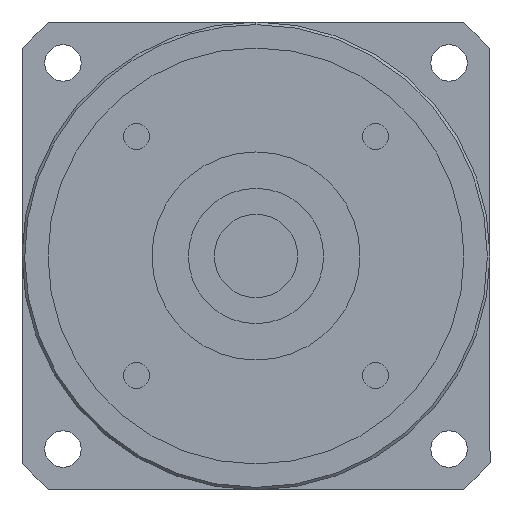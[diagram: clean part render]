
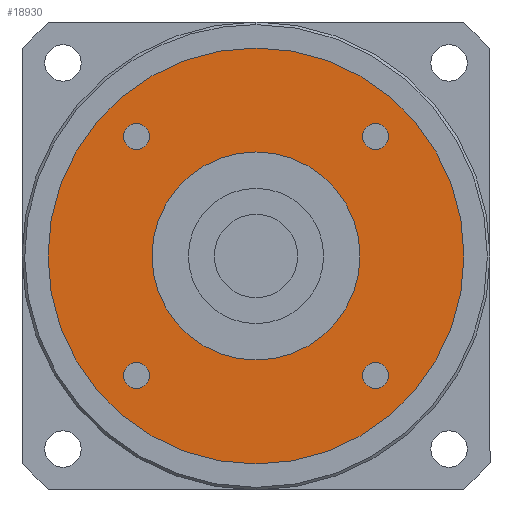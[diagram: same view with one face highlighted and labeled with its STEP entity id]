
A CAD part, left-side view. The second image highlights one B-rep face of the part: STEP entity #18930.
In plain terms, the highlighted planar face has unit normal (-1, 0, 0) as drawn and (0, 0, -1) by its records, which use the part's own axes.
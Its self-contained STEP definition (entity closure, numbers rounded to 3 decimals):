
#15670=CARTESIAN_POINT('',(0.,0.,
-117.));
#15680=DIRECTION('',(0.,0.,1.));
#15690=DIRECTION('',(0.,-1.,0.));
#15700=AXIS2_PLACEMENT_3D('',#15670,#15680,#15690);
#15710=CIRCLE('',#15700,20.);
#15720=CARTESIAN_POINT('',(0.,-20.,-117.));
#15730=VERTEX_POINT('',#15720);
#15740=CARTESIAN_POINT('',(20.,0.,-117.));
#15750=VERTEX_POINT('',#15740);
#15760=EDGE_CURVE('',#15730,#15750,#15710,.T.);
#15990=CARTESIAN_POINT('',(-20.,0.,-117.));
#16000=VERTEX_POINT('',#15990);
#16030=EDGE_CURVE('',#16000,#15730,#15710,.T.);
#16170=CARTESIAN_POINT('',(-20.481,-22.981,-117.));
#16180=VERTEX_POINT('',#16170);
#16360=CARTESIAN_POINT('',(-25.481,-22.981,-117.));
#16370=VERTEX_POINT('',#16360);
#16400=CARTESIAN_POINT('',(-22.981,-22.981,-117.));
#16410=DIRECTION('',(0.,0.,-1.));
#16420=DIRECTION('',(0.,-1.,0.));
#16430=AXIS2_PLACEMENT_3D('',#16400,#16410,#16420);
#16440=CIRCLE('',#16430,2.5);
#16450=CARTESIAN_POINT('',(-22.981,-25.481,-117.));
#16460=VERTEX_POINT('',#16450);
#16470=EDGE_CURVE('',#16460,#16370,#16440,.T.);
#16490=EDGE_CURVE('',#16180,#16460,#16440,.T.);
#17860=CARTESIAN_POINT('',(40.,0.,-117.));
#17870=VERTEX_POINT('',#17860);
#17900=CARTESIAN_POINT('',(0.,0.,
-117.));
#17910=DIRECTION('',(0.,0.,1.));
#17920=DIRECTION('',(0.,-1.,0.));
#17930=AXIS2_PLACEMENT_3D('',#17900,#17910,#17920);
#17940=CIRCLE('',#17930,40.);
#17950=CARTESIAN_POINT('',(0.,-40.,-117.));
#17960=VERTEX_POINT('',#17950);
#17970=EDGE_CURVE('',#17960,#17870,#17940,.T.);
#17990=CARTESIAN_POINT('',(-40.,0.,-117.));
#18000=VERTEX_POINT('',#17990);
#18010=EDGE_CURVE('',#18000,#17960,#17940,.T.);
#18130=CARTESIAN_POINT('',(0.,0.,
-117.));
#18140=DIRECTION('',(0.,0.,1.));
#18150=DIRECTION('',(-1.,0.,0.));
#18160=AXIS2_PLACEMENT_3D('',#18130,#18140,#18150);
#18170=PLANE('',#18160);
#18180=CARTESIAN_POINT('',(22.981,-22.981,-117.));
#18190=DIRECTION('',(0.,0.,-1.));
#18200=DIRECTION('',(1.,0.,0.));
#18210=AXIS2_PLACEMENT_3D('',#18180,#18190,#18200);
#18220=CIRCLE('',#18210,2.5);
#18230=CARTESIAN_POINT('',(25.481,-22.981,-117.));
#18240=VERTEX_POINT('',#18230);
#18250=CARTESIAN_POINT('',(22.981,-25.481,-117.));
#18260=VERTEX_POINT('',#18250);
#18270=EDGE_CURVE('',#18240,#18260,#18220,.T.);
#18280=ORIENTED_EDGE('',*,*,#18270,.F.);
#18290=CARTESIAN_POINT('',(22.981,-20.481,-117.));
#18300=VERTEX_POINT('',#18290);
#18310=EDGE_CURVE('',#18260,#18300,#18220,.T.);
#18320=ORIENTED_EDGE('',*,*,#18310,.F.);
#18330=EDGE_CURVE('',#18300,#18240,#18220,.T.);
#18340=ORIENTED_EDGE('',*,*,#18330,.F.);
#18350=EDGE_LOOP('',(#18340,#18320,#18280));
#18360=FACE_BOUND('',#18350,.T.);
#18370=CARTESIAN_POINT('',(22.981,22.981,-117.));
#18380=DIRECTION('',(0.,0.,-1.));
#18390=DIRECTION('',(0.,1.,0.));
#18400=AXIS2_PLACEMENT_3D('',#18370,#18380,#18390);
#18410=CIRCLE('',#18400,2.5);
#18420=CARTESIAN_POINT('',(22.981,25.481,-117.));
#18430=VERTEX_POINT('',#18420);
#18440=CARTESIAN_POINT('',(25.481,22.981,-117.));
#18450=VERTEX_POINT('',#18440);
#18460=EDGE_CURVE('',#18430,#18450,#18410,.T.);
#18470=ORIENTED_EDGE('',*,*,#18460,.F.);
#18480=CARTESIAN_POINT('',(20.481,22.981,-117.));
#18490=VERTEX_POINT('',#18480);
#18500=EDGE_CURVE('',#18450,#18490,#18410,.T.);
#18510=ORIENTED_EDGE('',*,*,#18500,.F.);
#18520=EDGE_CURVE('',#18490,#18430,#18410,.T.);
#18530=ORIENTED_EDGE('',*,*,#18520,.F.);
#18540=EDGE_LOOP('',(#18530,#18510,#18470));
#18550=FACE_BOUND('',#18540,.T.);
#18560=CARTESIAN_POINT('',(-22.981,22.981,-117.));
#18570=DIRECTION('',(0.,0.,-1.));
#18580=DIRECTION('',(-1.,0.,0.));
#18590=AXIS2_PLACEMENT_3D('',#18560,#18570,#18580);
#18600=CIRCLE('',#18590,2.5);
#18610=CARTESIAN_POINT('',(-25.481,22.981,-117.));
#18620=VERTEX_POINT('',#18610);
#18630=CARTESIAN_POINT('',(-22.981,25.481,-117.));
#18640=VERTEX_POINT('',#18630);
#18650=EDGE_CURVE('',#18620,#18640,#18600,.T.);
#18660=ORIENTED_EDGE('',*,*,#18650,.F.);
#18670=CARTESIAN_POINT('',(-22.981,20.481,-117.));
#18680=VERTEX_POINT('',#18670);
#18690=EDGE_CURVE('',#18640,#18680,#18600,.T.);
#18700=ORIENTED_EDGE('',*,*,#18690,.F.);
#18710=EDGE_CURVE('',#18680,#18620,#18600,.T.);
#18720=ORIENTED_EDGE('',*,*,#18710,.F.);
#18730=EDGE_LOOP('',(#18720,#18700,#18660));
#18740=FACE_BOUND('',#18730,.T.);
#18750=ORIENTED_EDGE('',*,*,#16470,.F.);
#18760=EDGE_CURVE('',#16370,#16180,#16440,.T.);
#18770=ORIENTED_EDGE('',*,*,#18760,.F.);
#18780=ORIENTED_EDGE('',*,*,#16490,.F.);
#18790=EDGE_LOOP('',(#18780,#18770,#18750));
#18800=FACE_BOUND('',#18790,.T.);
#18810=ORIENTED_EDGE('',*,*,#17970,.F.);
#18820=EDGE_CURVE('',#17870,#18000,#17940,.T.);
#18830=ORIENTED_EDGE('',*,*,#18820,.F.);
#18840=ORIENTED_EDGE('',*,*,#18010,.F.);
#18850=EDGE_LOOP('',(#18840,#18830,#18810));
#18860=FACE_OUTER_BOUND('',#18850,.T.);
#18870=EDGE_CURVE('',#15750,#16000,#15710,.T.);
#18880=ORIENTED_EDGE('',*,*,#18870,.T.);
#18890=ORIENTED_EDGE('',*,*,#15760,.T.);
#18900=ORIENTED_EDGE('',*,*,#16030,.T.);
#18910=EDGE_LOOP('',(#18900,#18890,#18880));
#18920=FACE_BOUND('',#18910,.T.);
#18930=ADVANCED_FACE('',(#18360,#18550,#18740,#18800,#18860,#18920),
#18170,.F.);
